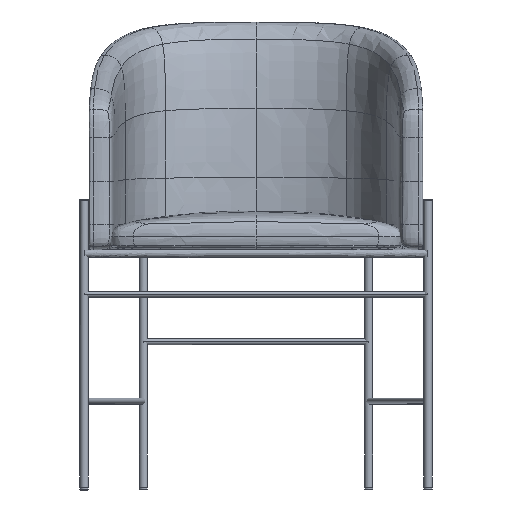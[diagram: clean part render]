
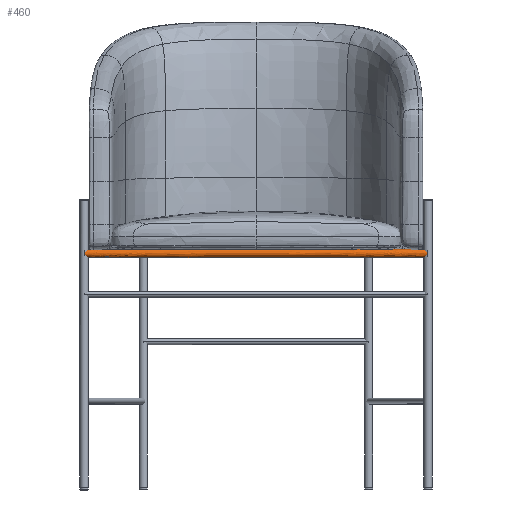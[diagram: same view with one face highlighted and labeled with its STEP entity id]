
A CAD part, front view. The second image highlights one B-rep face of the part: STEP entity #460.
In plain terms, the highlighted free-form (B-spline) face has degree [2, 1] with [9, 2] control points.
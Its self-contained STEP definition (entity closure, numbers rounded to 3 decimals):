
#460=ADVANCED_FACE('',(#736),#3766,.T.);
#736=FACE_OUTER_BOUND('',#1018,.T.);
#1018=EDGE_LOOP('',(#1450,#1451,#1452,#1453,#1454,#1455));
#1450=ORIENTED_EDGE('',*,*,#2415,.F.);
#1451=ORIENTED_EDGE('',*,*,#2421,.T.);
#1452=ORIENTED_EDGE('',*,*,#2419,.F.);
#1453=ORIENTED_EDGE('',*,*,#2418,.F.);
#1454=ORIENTED_EDGE('',*,*,#2422,.T.);
#1455=ORIENTED_EDGE('',*,*,#2416,.F.);
#2415=EDGE_CURVE('',#3453,#3454,#3052,.T.);
#2416=EDGE_CURVE('',#3454,#3455,#3053,.T.);
#2418=EDGE_CURVE('',#3456,#3457,#3054,.T.);
#2419=EDGE_CURVE('',#3457,#3458,#3055,.T.);
#2421=EDGE_CURVE('',#3453,#3458,#2929,.T.);
#2422=EDGE_CURVE('',#3456,#3455,#2930,.T.);
#2929=(
BOUNDED_CURVE()
B_SPLINE_CURVE(2,(#5826,#5827,#5828,#5829,#5830),.UNSPECIFIED.,.F.,.F.)
B_SPLINE_CURVE_WITH_KNOTS((3,2,3),(0.,10.996,21.991),
 .UNSPECIFIED.)
CURVE()
GEOMETRIC_REPRESENTATION_ITEM()
RATIONAL_B_SPLINE_CURVE((1.,0.707,1.,0.707,1.))
REPRESENTATION_ITEM('')
);
#2930=(
BOUNDED_CURVE()
B_SPLINE_CURVE(2,(#5831,#5832,#5833,#5834,#5835),.UNSPECIFIED.,.F.,.F.)
B_SPLINE_CURVE_WITH_KNOTS((3,2,3),(0.,10.996,21.991),
 .UNSPECIFIED.)
CURVE()
GEOMETRIC_REPRESENTATION_ITEM()
RATIONAL_B_SPLINE_CURVE((1.,0.707,1.,0.707,1.))
REPRESENTATION_ITEM('')
);
#3052=B_SPLINE_CURVE_WITH_KNOTS('',1,(#5808,#5809),.UNSPECIFIED.,.F.,.F.,
(2,2),(-554.,0.),.UNSPECIFIED.);
#3053=B_SPLINE_CURVE_WITH_KNOTS('',1,(#5810,#5811),.UNSPECIFIED.,.F.,.F.,
(2,2),(0.,25.),.UNSPECIFIED.);
#3054=B_SPLINE_CURVE_WITH_KNOTS('',1,(#5817,#5818),.UNSPECIFIED.,.F.,.F.,
(2,2),(-515.,0.),.UNSPECIFIED.);
#3055=B_SPLINE_CURVE_WITH_KNOTS('',1,(#5819,#5820),.UNSPECIFIED.,.F.,.F.,
(2,2),(0.,64.),.UNSPECIFIED.);
#3453=VERTEX_POINT('',#5788);
#3454=VERTEX_POINT('',#5789);
#3455=VERTEX_POINT('',#5790);
#3456=VERTEX_POINT('',#5791);
#3457=VERTEX_POINT('',#5792);
#3458=VERTEX_POINT('',#5793);
#3766=(
BOUNDED_SURFACE()
B_SPLINE_SURFACE(2,1,((#5748,#5749),(#5750,#5751),(#5752,#5753),(#5754,
#5755),(#5756,#5757),(#5758,#5759),(#5760,#5761),(#5762,#5763),(#5764,#5765)),
 .UNSPECIFIED.,.T.,.F.,.F.)
B_SPLINE_SURFACE_WITH_KNOTS((3,2,2,2,3),(2,2),(0.,1.571,3.142,
4.712,6.283),(0.,694.802),.UNSPECIFIED.)
GEOMETRIC_REPRESENTATION_ITEM()
RATIONAL_B_SPLINE_SURFACE(((1.,1.),(0.707,0.707),
(1.,1.),(0.707,0.707),(1.,1.),(0.707,
0.707),(1.,1.),(0.707,0.707),(1.,1.)))
REPRESENTATION_ITEM('')
SURFACE()
);
#5748=CARTESIAN_POINT('',(2566.099,-55.5,399.));
#5749=CARTESIAN_POINT('',(3260.901,-55.5,399.));
#5750=CARTESIAN_POINT('',(2566.099,-55.5,406.));
#5751=CARTESIAN_POINT('',(3260.901,-55.5,406.));
#5752=CARTESIAN_POINT('',(2566.099,-62.5,406.));
#5753=CARTESIAN_POINT('',(3260.901,-62.5,406.));
#5754=CARTESIAN_POINT('',(2566.099,-69.5,406.));
#5755=CARTESIAN_POINT('',(3260.901,-69.5,406.));
#5756=CARTESIAN_POINT('',(2566.099,-69.5,399.));
#5757=CARTESIAN_POINT('',(3260.901,-69.5,399.));
#5758=CARTESIAN_POINT('',(2566.099,-69.5,392.));
#5759=CARTESIAN_POINT('',(3260.901,-69.5,392.));
#5760=CARTESIAN_POINT('',(2566.099,-62.5,392.));
#5761=CARTESIAN_POINT('',(3260.901,-62.5,392.));
#5762=CARTESIAN_POINT('',(2566.099,-55.5,392.));
#5763=CARTESIAN_POINT('',(3260.901,-55.5,392.));
#5764=CARTESIAN_POINT('',(2566.099,-55.5,399.));
#5765=CARTESIAN_POINT('',(3260.901,-55.5,399.));
#5788=CARTESIAN_POINT('',(3203.,-62.5,392.));
#5789=CARTESIAN_POINT('',(2649.,-62.5,392.));
#5790=CARTESIAN_POINT('',(2624.,-62.5,392.));
#5791=CARTESIAN_POINT('',(2624.,-62.5,406.));
#5792=CARTESIAN_POINT('',(3139.,-62.5,406.));
#5793=CARTESIAN_POINT('',(3203.,-62.5,406.));
#5808=CARTESIAN_POINT('',(3203.,-62.5,392.));
#5809=CARTESIAN_POINT('',(2649.,-62.5,392.));
#5810=CARTESIAN_POINT('',(2649.,-62.5,392.));
#5811=CARTESIAN_POINT('',(2624.,-62.5,392.));
#5817=CARTESIAN_POINT('',(2624.,-62.5,406.));
#5818=CARTESIAN_POINT('',(3139.,-62.5,406.));
#5819=CARTESIAN_POINT('',(3139.,-62.5,406.));
#5820=CARTESIAN_POINT('',(3203.,-62.5,406.));
#5826=CARTESIAN_POINT('',(3203.,-62.5,392.));
#5827=CARTESIAN_POINT('',(3203.,-69.5,392.));
#5828=CARTESIAN_POINT('',(3203.,-69.5,399.));
#5829=CARTESIAN_POINT('',(3203.,-69.5,406.));
#5830=CARTESIAN_POINT('',(3203.,-62.5,406.));
#5831=CARTESIAN_POINT('',(2624.,-62.5,406.));
#5832=CARTESIAN_POINT('',(2624.,-69.5,406.));
#5833=CARTESIAN_POINT('',(2624.,-69.5,399.));
#5834=CARTESIAN_POINT('',(2624.,-69.5,392.));
#5835=CARTESIAN_POINT('',(2624.,-62.5,392.));
